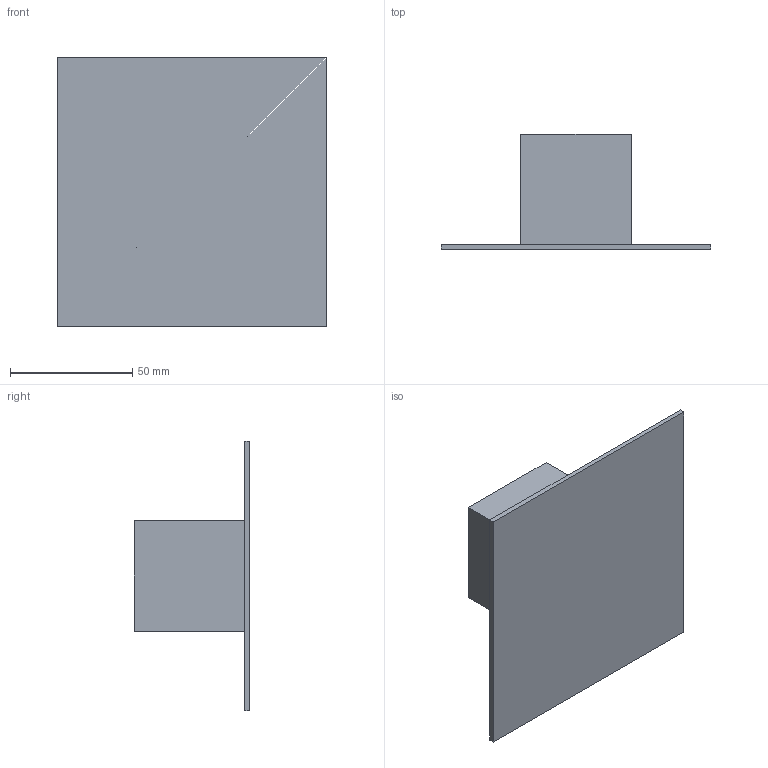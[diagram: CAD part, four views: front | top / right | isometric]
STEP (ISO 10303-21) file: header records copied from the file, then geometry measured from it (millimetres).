
FILE_DESCRIPTION (( 'STEP AP214' ), '1' );
FILE_NAME ('09231610 x architetti.STEP', '2025-01-25T07:12:30', ( '' ), ( '' ), 'SwSTEP 2.0', 'SolidWorks 2020', '' );
FILE_SCHEMA (( 'AUTOMOTIVE_DESIGN' ));
Length unit declared in the file: millimetre
Products named in the file (1): 09231610 x architetti
Bounding box: 110 x 47 x 110 mm (x, y, z)
Volume: 115325 mm3; surface area: 33180 mm2
Topology: 1 solids, 1 shells, 11 faces, 24 edges, 16 vertices
Faces by surface type: plane 11
Entity records: 453 total; most frequent: CARTESIAN_POINT 52, DIRECTION 48, ORIENTED_EDGE 48, LINE 24, EDGE_CURVE 24, VECTOR 24, VERTEX_POINT 16, UNCERTAINTY_MEASURE_WITH_UNIT 14
